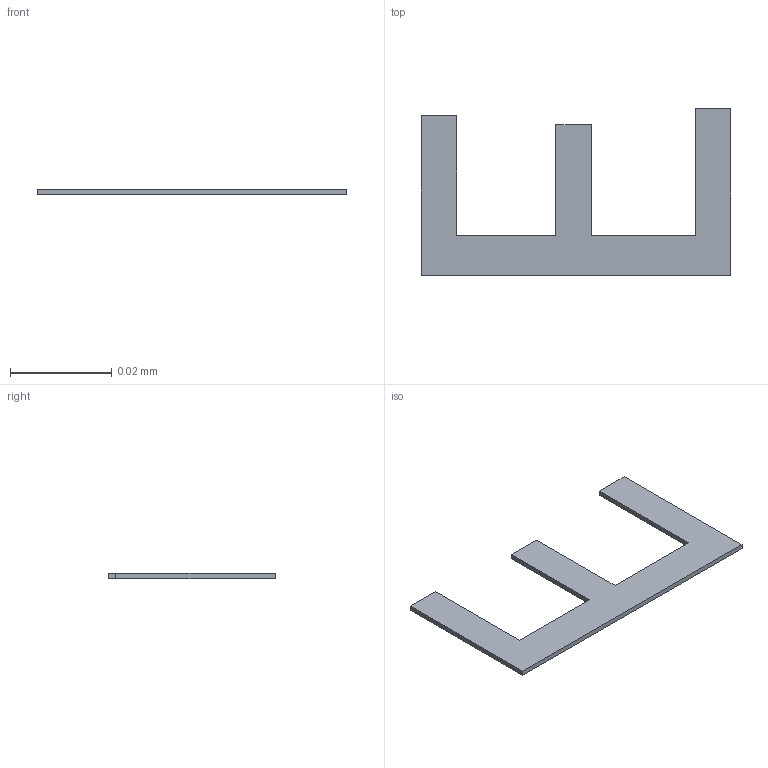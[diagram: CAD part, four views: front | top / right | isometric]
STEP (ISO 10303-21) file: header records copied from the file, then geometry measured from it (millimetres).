
FILE_DESCRIPTION(/* description */ ('STEP AP242 Edition 2','CAx-IF Rec.Pracs.---Representation and Presentation of Product Manufacturing Information (PMI)---4.0---2014-10-13','CAx-IF Rec.Pracs.---3D Tessellated Geometry---0.4---2014-09-14','2;1','CAx-IF Rec.Pracs.---User Defined Attributes---1.5---2016-08-15'),/* implementation_level */ '2;1');
FILE_NAME(/* name */ 'Assembly 1 - SOT-23-3_L2.9-W1.3-P0.95-LS2.4-BR~SOT-23-3P_L2.9-W1.3-H1.0-LS2.4-P0.95~nxQB (8)',/* time_stamp */ '2026-04-02T09:55:24Z',/* author */ (''),/* organization */ (''),/* preprocessor_version */ 'ST-DEVELOPER v20',/* originating_system */ 'ONSHAPE BY PTC INC, 1.212',/* authorisation */ ' ');
FILE_SCHEMA (('AP242_MANAGED_MODEL_BASED_3D_ENGINEERING_MIM_LF { 1 0 10303 442 3 1 4 }'));
Length unit declared in the file: metre
Products named in the file (1): SOT-23-3_L2.9-W1.3-P0.95-LS2.4-BR~SOT-23-3P_L2.9-W1.3-H1.0-LS2.4-P0.9
5~nxQB
Bounding box: 0.06 x 0.03 x 0 mm (x, y, z)
Volume: 0 mm3; surface area: 0 mm2
Topology: 1 solids, 1 shells, 14 faces, 36 edges, 24 vertices
Faces by surface type: plane 14
Entity records: 541 total; most frequent: CARTESIAN_POINT 75, ORIENTED_EDGE 72, DIRECTION 66, EDGE_CURVE 36, LINE 36, VECTOR 36, VERTEX_POINT 24, PRESENTATION_STYLE_ASSIGNMENT 15
